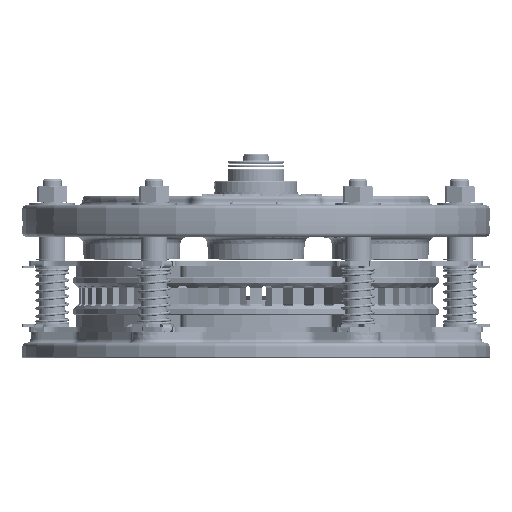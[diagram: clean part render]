
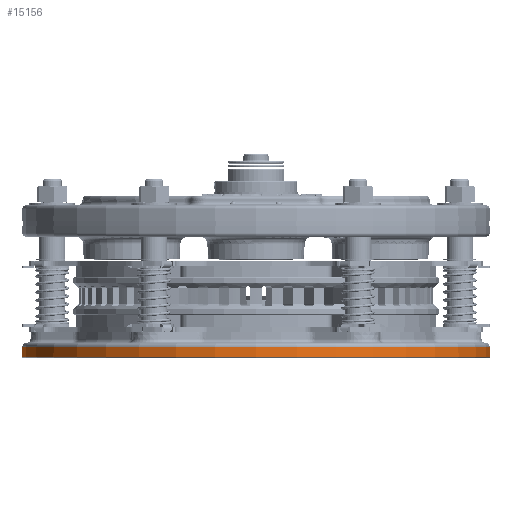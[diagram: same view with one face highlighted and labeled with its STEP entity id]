
A CAD part, front view. The second image highlights one B-rep face of the part: STEP entity #15156.
In plain terms, the highlighted conical face has half-angle 2 degrees and reference radius 196.85 mm.
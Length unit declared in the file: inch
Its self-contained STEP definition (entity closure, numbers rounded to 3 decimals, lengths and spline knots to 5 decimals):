
#6348 = EDGE_CURVE ( 'NONE', #141552, #57125, #97167, .T. ) ;
#15156 = ADVANCED_FACE ( 'NONE', ( #152350 ), #26094, .T. ) ;
#26094 = CONICAL_SURFACE ( 'NONE', #87898, 7.75, 0.035 ) ;
#40830 = ORIENTED_EDGE ( 'NONE', *, *, #105689, .T. ) ;
#51174 = CARTESIAN_POINT ( 'NONE',  ( -7.75, 0., -0.125 ) ) ;
#57125 = VERTEX_POINT ( 'NONE', #86758 ) ;
#69103 = DIRECTION ( 'NONE',  ( 1., 0., 0. ) ) ;
#82596 = ORIENTED_EDGE ( 'NONE', *, *, #190129, .T. ) ;
#85416 = CARTESIAN_POINT ( 'NONE',  ( 0., 0., 0.37936 ) ) ;
#86758 = CARTESIAN_POINT ( 'NONE',  ( 7.74455, 0., 0.03098 ) ) ;
#87898 = AXIS2_PLACEMENT_3D ( 'NONE', #127099, #115467, #69103 ) ;
#88266 = ORIENTED_EDGE ( 'NONE', *, *, #6348, .T. ) ;
#97167 = CIRCLE ( 'NONE', #121928, 7.74455 ) ;
#102048 = VERTEX_POINT ( 'NONE', #148698 ) ;
#105689 = EDGE_CURVE ( 'NONE', #102048, #141552, #109161, .T. ) ;
#107726 = AXIS2_PLACEMENT_3D ( 'NONE', #85416, #186817, #111524 ) ;
#109161 = LINE ( 'NONE', #51174, #152305 ) ;
#111524 = DIRECTION ( 'NONE',  ( 1., 0., 0. ) ) ;
#115467 = DIRECTION ( 'NONE',  ( 0., 0., -1. ) ) ;
#115732 = EDGE_CURVE ( 'NONE', #137075, #57125, #144432, .T. ) ;
#121928 = AXIS2_PLACEMENT_3D ( 'NONE', #154829, #183728, #138391 ) ;
#127099 = CARTESIAN_POINT ( 'NONE',  ( 0., 0., -0.125 ) ) ;
#137075 = VERTEX_POINT ( 'NONE', #182412 ) ;
#138189 = DIRECTION ( 'NONE',  ( -0.035, 0., -0.999 ) ) ;
#138391 = DIRECTION ( 'NONE',  ( 1., 0., 0. ) ) ;
#141552 = VERTEX_POINT ( 'NONE', #190335 ) ;
#144432 = LINE ( 'NONE', #190654, #164869 ) ;
#148698 = CARTESIAN_POINT ( 'NONE',  ( -7.73239, 0., 0.37936 ) ) ;
#152305 = VECTOR ( 'NONE', #138189, 39.37008 ) ;
#152350 = FACE_OUTER_BOUND ( 'NONE', #187722, .T. ) ;
#154168 = CIRCLE ( 'NONE', #107726, 7.73239 ) ;
#154829 = CARTESIAN_POINT ( 'NONE',  ( 0., 0., 0.03098 ) ) ;
#160820 = DIRECTION ( 'NONE',  ( 0.035, 0., -0.999 ) ) ;
#164869 = VECTOR ( 'NONE', #160820, 39.37008 ) ;
#175455 = ORIENTED_EDGE ( 'NONE', *, *, #115732, .F. ) ;
#182412 = CARTESIAN_POINT ( 'NONE',  ( 7.73239, 0., 0.37936 ) ) ;
#183728 = DIRECTION ( 'NONE',  ( 0., 0., 1. ) ) ;
#186817 = DIRECTION ( 'NONE',  ( 0., 0., -1. ) ) ;
#187722 = EDGE_LOOP ( 'NONE', ( #82596, #40830, #88266, #175455 ) ) ;
#190129 = EDGE_CURVE ( 'NONE', #137075, #102048, #154168, .T. ) ;
#190335 = CARTESIAN_POINT ( 'NONE',  ( -7.74455, 0., 0.03098 ) ) ;
#190654 = CARTESIAN_POINT ( 'NONE',  ( 7.75, 0., -0.125 ) ) ;
